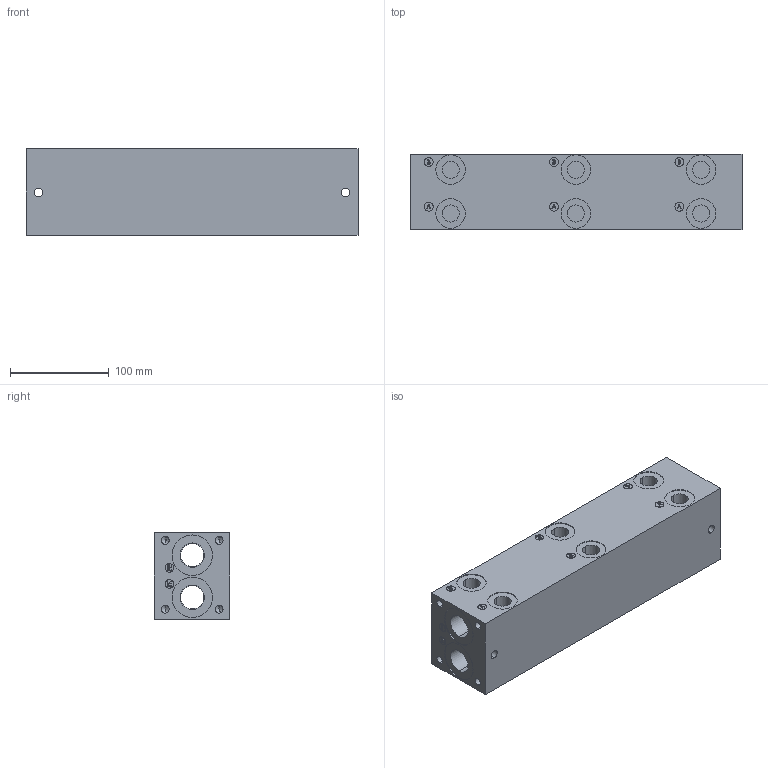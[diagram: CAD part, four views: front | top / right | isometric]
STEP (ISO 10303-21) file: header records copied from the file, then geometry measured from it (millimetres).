
FILE_DESCRIPTION (( 'STEP AP203' ), '1' );
FILE_NAME ('BM-ASS05S5-03-1_Z.STEP', '2015-01-06T16:07:02', ( '' ), ( '' ), 'SwSTEP 2.0', 'SolidWorks 2014', '' );
FILE_SCHEMA (( 'CONFIG_CONTROL_DESIGN' ));
Length unit declared in the file: inch
Products named in the file (1): BM-ASS05S5-03-1_Z
Bounding box: 336.55 x 76.71 x 88.04 mm (x, y, z)
Volume: 1927538.9 mm3; surface area: 191854.4 mm2
Topology: 1 solids, 1 shells, 482 faces, 1163 edges, 722 vertices
Faces by surface type: plane 211, cylinder 160, cone 64, bspline 47
Entity records: 16340 total; most frequent: CARTESIAN_POINT 5351, ORIENTED_EDGE 2198, DIRECTION 2197, EDGE_CURVE 1099, AXIS2_PLACEMENT_3D 756, VERTEX_POINT 722, VECTOR 685, LINE 685
